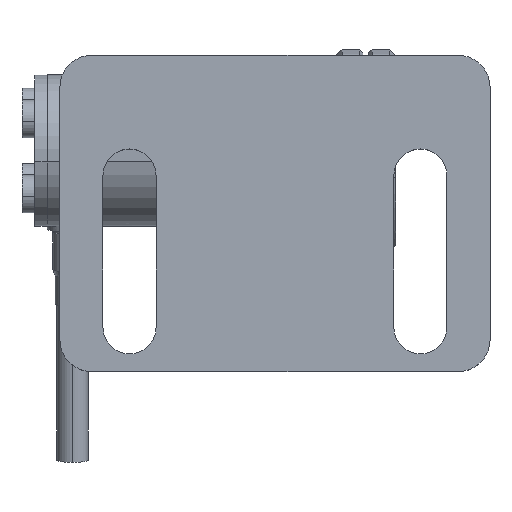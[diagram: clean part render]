
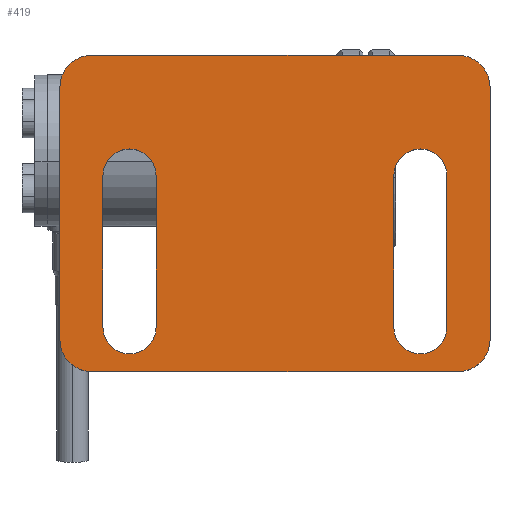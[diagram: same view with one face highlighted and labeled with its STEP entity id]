
A CAD part, top view. The second image highlights one B-rep face of the part: STEP entity #419.
In plain terms, the highlighted planar face has unit normal (0, 0, 1).
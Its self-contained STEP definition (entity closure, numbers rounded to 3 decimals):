
#167 = CARTESIAN_POINT ( 'NONE',  ( -22.87, -10.895, 0.11 ) ) ;
#168 = DIRECTION ( 'NONE',  ( 0., -1., 0. ) ) ;
#193 = CARTESIAN_POINT ( 'NONE',  ( -18.67, 13.105, 0.11 ) ) ;
#194 = DIRECTION ( 'NONE',  ( 0., 0., 1. ) ) ;
#195 = DIRECTION ( 'NONE',  ( -1., 0., 0. ) ) ;
#419 = ADVANCED_FACE ( 'NONE', ( #2070, #2496, #2498 ), #5082, .F. ) ;
#1132 = LINE ( 'NONE', #6106, #1136 ) ;
#1136 = VECTOR ( 'NONE', #6112, 1000. ) ;
#1192 = LINE ( 'NONE', #5122, #1196 ) ;
#1193 = CIRCLE ( 'NONE', #3092, 4.2 ) ;
#1195 = LINE ( 'NONE', #5137, #1201 ) ;
#1196 = VECTOR ( 'NONE', #5127, 1000. ) ;
#1198 = CIRCLE ( 'NONE', #3090, 4.2 ) ;
#1200 = CIRCLE ( 'NONE', #3089, 5. ) ;
#1201 = VECTOR ( 'NONE', #5132, 1000. ) ;
#1438 = CARTESIAN_POINT ( 'NONE',  ( -29.67, 32.105, 0.11 ) ) ;
#1442 = DIRECTION ( 'NONE',  ( 0., 1., 0. ) ) ;
#1446 = DIRECTION ( 'NONE',  ( -1., 0., 0. ) ) ;
#1447 = CARTESIAN_POINT ( 'NONE',  ( 31.53, 13.105, 0.11 ) ) ;
#1453 = CARTESIAN_POINT ( 'NONE',  ( 33.33, -12.895, 0.11 ) ) ;
#1454 = DIRECTION ( 'NONE',  ( 0., 0., 1. ) ) ;
#1455 = DIRECTION ( 'NONE',  ( -1., 0., 0. ) ) ;
#1466 = CARTESIAN_POINT ( 'NONE',  ( -24.67, -12.895, 0.11 ) ) ;
#1467 = DIRECTION ( 'NONE',  ( 0., 0., 1. ) ) ;
#1468 = DIRECTION ( 'NONE',  ( -1., 0., 0. ) ) ;
#1494 = CARTESIAN_POINT ( 'NONE',  ( 23.13, -10.895, 0.11 ) ) ;
#1501 = DIRECTION ( 'NONE',  ( 0., -1., 0. ) ) ;
#1567 = CARTESIAN_POINT ( 'NONE',  ( 38.33, -17.895, 0.11 ) ) ;
#1574 = DIRECTION ( 'NONE',  ( 0., 1., 0. ) ) ;
#1576 = CARTESIAN_POINT ( 'NONE',  ( 27.33, 13.105, 0.11 ) ) ;
#1577 = DIRECTION ( 'NONE',  ( 0., 0., 1. ) ) ;
#1578 = DIRECTION ( 'NONE',  ( -1., 0., 0. ) ) ;
#1584 = CARTESIAN_POINT ( 'NONE',  ( 33.33, 27.105, 0.11 ) ) ;
#1585 = DIRECTION ( 'NONE',  ( 0., 0., 1. ) ) ;
#1586 = DIRECTION ( 'NONE',  ( -1., 0., 0. ) ) ;
#1887 = ORIENTED_EDGE ( 'NONE', *, *, #4641, .T. ) ;
#1894 = ORIENTED_EDGE ( 'NONE', *, *, #4501, .T. ) ;
#1895 = ORIENTED_EDGE ( 'NONE', *, *, #4634, .T. ) ;
#1896 = ORIENTED_EDGE ( 'NONE', *, *, #4690, .T. ) ;
#1898 = VERTEX_POINT ( 'NONE', #2110 ) ;
#1900 = ORIENTED_EDGE ( 'NONE', *, *, #4941, .F. ) ;
#1901 = ORIENTED_EDGE ( 'NONE', *, *, #4457, .F. ) ;
#1902 = ORIENTED_EDGE ( 'NONE', *, *, #4502, .T. ) ;
#1903 = VERTEX_POINT ( 'NONE', #2113 ) ;
#1904 = ORIENTED_EDGE ( 'NONE', *, *, #4497, .T. ) ;
#1905 = ORIENTED_EDGE ( 'NONE', *, *, #4686, .T. ) ;
#1906 = ORIENTED_EDGE ( 'NONE', *, *, #4498, .F. ) ;
#1907 = ORIENTED_EDGE ( 'NONE', *, *, #4980, .F. ) ;
#1909 = ORIENTED_EDGE ( 'NONE', *, *, #4633, .F. ) ;
#1910 = ORIENTED_EDGE ( 'NONE', *, *, #4687, .F. ) ;
#1911 = ORIENTED_EDGE ( 'NONE', *, *, #4655, .F. ) ;
#1912 = ORIENTED_EDGE ( 'NONE', *, *, #4635, .T. ) ;
#1916 = ORIENTED_EDGE ( 'NONE', *, *, #4500, .F. ) ;
#1941 = VERTEX_POINT ( 'NONE', #2119 ) ;
#1944 = VERTEX_POINT ( 'NONE', #2118 ) ;
#1945 = VERTEX_POINT ( 'NONE', #2114 ) ;
#1946 = VERTEX_POINT ( 'NONE', #2121 ) ;
#1947 = VERTEX_POINT ( 'NONE', #2116 ) ;
#1949 = VERTEX_POINT ( 'NONE', #2123 ) ;
#1950 = VERTEX_POINT ( 'NONE', #2120 ) ;
#1953 = VERTEX_POINT ( 'NONE', #2126 ) ;
#1956 = VERTEX_POINT ( 'NONE', #2129 ) ;
#1957 = VERTEX_POINT ( 'NONE', #2130 ) ;
#1969 = VERTEX_POINT ( 'NONE', #2142 ) ;
#1970 = VERTEX_POINT ( 'NONE', #2143 ) ;
#2010 = VERTEX_POINT ( 'NONE', #2148 ) ;
#2038 = VERTEX_POINT ( 'NONE', #2154 ) ;
#2070 = FACE_BOUND ( 'NONE', #2574, .T. ) ;
#2110 = CARTESIAN_POINT ( 'NONE',  ( -29.67, 27.105, 0.11 ) ) ;
#2113 = CARTESIAN_POINT ( 'NONE',  ( -29.67, -12.895, 0.11 ) ) ;
#2114 = CARTESIAN_POINT ( 'NONE',  ( -24.67, -17.895, 0.11 ) ) ;
#2116 = CARTESIAN_POINT ( 'NONE',  ( 33.33, -17.895, 0.11 ) ) ;
#2118 = CARTESIAN_POINT ( 'NONE',  ( -14.47, 13.105, 0.11 ) ) ;
#2119 = CARTESIAN_POINT ( 'NONE',  ( -14.47, -10.895, 0.11 ) ) ;
#2120 = CARTESIAN_POINT ( 'NONE',  ( 31.53, -10.895, 0.11 ) ) ;
#2121 = CARTESIAN_POINT ( 'NONE',  ( -22.87, -10.895, 0.11 ) ) ;
#2123 = CARTESIAN_POINT ( 'NONE',  ( 23.13, 13.105, 0.11 ) ) ;
#2126 = CARTESIAN_POINT ( 'NONE',  ( 23.13, -10.895, 0.11 ) ) ;
#2129 = CARTESIAN_POINT ( 'NONE',  ( 38.33, 27.105, 0.11 ) ) ;
#2130 = CARTESIAN_POINT ( 'NONE',  ( 38.33, -12.895, 0.11 ) ) ;
#2142 = CARTESIAN_POINT ( 'NONE',  ( -24.67, 32.105, 0.11 ) ) ;
#2143 = CARTESIAN_POINT ( 'NONE',  ( 31.53, 13.105, 0.11 ) ) ;
#2148 = CARTESIAN_POINT ( 'NONE',  ( -22.87, 13.105, 0.11 ) ) ;
#2154 = CARTESIAN_POINT ( 'NONE',  ( 33.33, 32.105, 0.11 ) ) ;
#2496 = FACE_OUTER_BOUND ( 'NONE', #2581, .T. ) ;
#2498 = FACE_BOUND ( 'NONE', #2557, .T. ) ;
#2557 = EDGE_LOOP ( 'NONE', ( #1916, #1911, #1910, #1909 ) ) ;
#2574 = EDGE_LOOP ( 'NONE', ( #1906, #1900, #1907, #1901 ) ) ;
#2581 = EDGE_LOOP ( 'NONE', ( #1912, #1902, #1904, #1887, #1894, #1895, #1905, #1896 ) ) ;
#2900 = AXIS2_PLACEMENT_3D ( 'NONE', #193, #194, #195 ) ;
#2998 = AXIS2_PLACEMENT_3D ( 'NONE', #1584, #1585, #1586 ) ;
#2999 = AXIS2_PLACEMENT_3D ( 'NONE', #1576, #1577, #1578 ) ;
#3019 = AXIS2_PLACEMENT_3D ( 'NONE', #1466, #1467, #1468 ) ;
#3020 = AXIS2_PLACEMENT_3D ( 'NONE', #1453, #1454, #1455 ) ;
#3089 = AXIS2_PLACEMENT_3D ( 'NONE', #5142, #5143, #5144 ) ;
#3090 = AXIS2_PLACEMENT_3D ( 'NONE', #5138, #5139, #5140 ) ;
#3092 = AXIS2_PLACEMENT_3D ( 'NONE', #5129, #5130, #5131 ) ;
#4457 = EDGE_CURVE ( 'NONE', #1941, #1944, #1132, .T. ) ;
#4497 = EDGE_CURVE ( 'NONE', #1898, #1903, #1192, .T. ) ;
#4498 = EDGE_CURVE ( 'NONE', #1946, #1941, #1193, .T. ) ;
#4500 = EDGE_CURVE ( 'NONE', #1953, #1950, #1198, .T. ) ;
#4501 = EDGE_CURVE ( 'NONE', #1945, #1947, #1195, .T. ) ;
#4502 = EDGE_CURVE ( 'NONE', #1969, #1898, #1200, .T. ) ;
#4633 = EDGE_CURVE ( 'NONE', #1950, #1970, #6743, .T. ) ;
#4634 = EDGE_CURVE ( 'NONE', #1947, #1957, #6750, .T. ) ;
#4635 = EDGE_CURVE ( 'NONE', #2038, #1969, #6752, .T. ) ;
#4641 = EDGE_CURVE ( 'NONE', #1903, #1945, #6759, .T. ) ;
#4655 = EDGE_CURVE ( 'NONE', #1949, #1953, #6781, .T. ) ;
#4686 = EDGE_CURVE ( 'NONE', #1957, #1956, #6825, .T. ) ;
#4687 = EDGE_CURVE ( 'NONE', #1970, #1949, #6838, .T. ) ;
#4690 = EDGE_CURVE ( 'NONE', #1956, #2038, #6841, .T. ) ;
#4837 = AXIS2_PLACEMENT_3D ( 'NONE', #5080, #5074, #5084 ) ;
#4941 = EDGE_CURVE ( 'NONE', #2010, #1946, #6526, .T. ) ;
#4980 = EDGE_CURVE ( 'NONE', #1944, #2010, #6539, .T. ) ;
#5074 = DIRECTION ( 'NONE',  ( 0., 0., -1. ) ) ;
#5080 = CARTESIAN_POINT ( 'NONE',  ( -29.67, 32.105, 0.11 ) ) ;
#5082 = PLANE ( 'NONE',  #4837 ) ;
#5084 = DIRECTION ( 'NONE',  ( -1., 0., 0. ) ) ;
#5122 = CARTESIAN_POINT ( 'NONE',  ( -29.67, -17.895, 0.11 ) ) ;
#5127 = DIRECTION ( 'NONE',  ( 0., -1., 0. ) ) ;
#5129 = CARTESIAN_POINT ( 'NONE',  ( -18.67, -10.895, 0.11 ) ) ;
#5130 = DIRECTION ( 'NONE',  ( 0., 0., 1. ) ) ;
#5131 = DIRECTION ( 'NONE',  ( -1., 0., 0. ) ) ;
#5132 = DIRECTION ( 'NONE',  ( 1., 0., 0. ) ) ;
#5137 = CARTESIAN_POINT ( 'NONE',  ( -29.67, -17.895, 0.11 ) ) ;
#5138 = CARTESIAN_POINT ( 'NONE',  ( 27.33, -10.895, 0.11 ) ) ;
#5139 = DIRECTION ( 'NONE',  ( 0., 0., 1. ) ) ;
#5140 = DIRECTION ( 'NONE',  ( -1., 0., 0. ) ) ;
#5142 = CARTESIAN_POINT ( 'NONE',  ( -24.67, 27.105, 0.11 ) ) ;
#5143 = DIRECTION ( 'NONE',  ( 0., 0., 1. ) ) ;
#5144 = DIRECTION ( 'NONE',  ( -1., 0., 0. ) ) ;
#6106 = CARTESIAN_POINT ( 'NONE',  ( -14.47, 13.105, 0.11 ) ) ;
#6112 = DIRECTION ( 'NONE',  ( 0., 1., 0. ) ) ;
#6526 = LINE ( 'NONE', #167, #6529 ) ;
#6529 = VECTOR ( 'NONE', #168, 1000. ) ;
#6539 = CIRCLE ( 'NONE', #2900, 4.2 ) ;
#6743 = LINE ( 'NONE', #1447, #6751 ) ;
#6750 = CIRCLE ( 'NONE', #3020, 5. ) ;
#6751 = VECTOR ( 'NONE', #1442, 1000. ) ;
#6752 = LINE ( 'NONE', #1438, #6754 ) ;
#6754 = VECTOR ( 'NONE', #1446, 1000. ) ;
#6759 = CIRCLE ( 'NONE', #3019, 5. ) ;
#6781 = LINE ( 'NONE', #1494, #6788 ) ;
#6788 = VECTOR ( 'NONE', #1501, 1000. ) ;
#6825 = LINE ( 'NONE', #1567, #6839 ) ;
#6838 = CIRCLE ( 'NONE', #2999, 4.2 ) ;
#6839 = VECTOR ( 'NONE', #1574, 1000. ) ;
#6841 = CIRCLE ( 'NONE', #2998, 5. ) ;
